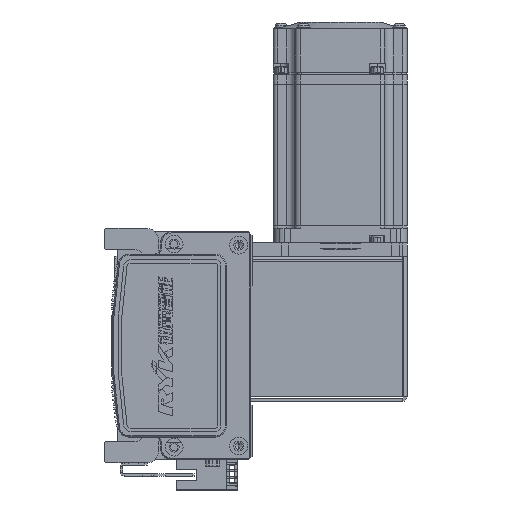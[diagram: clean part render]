
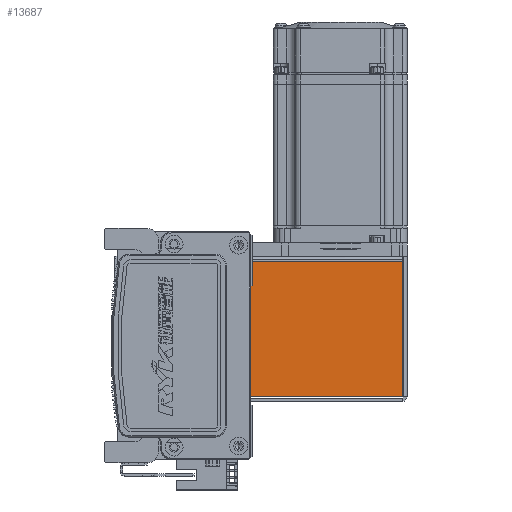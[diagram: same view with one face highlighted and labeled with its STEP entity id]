
A CAD part, left-side view. The second image highlights one B-rep face of the part: STEP entity #13687.
In plain terms, the highlighted planar face has unit normal (-1, 0, 0) as drawn and (0, 0, 1) by its records, which use the part's own axes.
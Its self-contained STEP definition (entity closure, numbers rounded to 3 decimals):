
#105 = VERTEX_POINT ( 'NONE', #59816 ) ;
#2006 = ORIENTED_EDGE ( 'NONE', *, *, #12366, .T. ) ;
#2077 = ORIENTED_EDGE ( 'NONE', *, *, #71342, .T. ) ;
#5154 = DIRECTION ( 'NONE',  ( -1., 0., 0. ) ) ;
#5592 = VERTEX_POINT ( 'NONE', #20975 ) ;
#6726 = ORIENTED_EDGE ( 'NONE', *, *, #36060, .F. ) ;
#7172 = LINE ( 'NONE', #55038, #21187 ) ;
#8751 = DIRECTION ( 'NONE',  ( 0., 1., 0. ) ) ;
#10531 = PLANE ( 'NONE',  #14360 ) ;
#10927 = CARTESIAN_POINT ( 'NONE',  ( 30.263, 72.5, 35. ) ) ;
#12366 = EDGE_CURVE ( 'NONE', #14037, #56559, #39897, .T. ) ;
#13687 = ADVANCED_FACE ( 'NONE', ( #21360 ), #10531, .F. ) ;
#14037 = VERTEX_POINT ( 'NONE', #66371 ) ;
#14360 = AXIS2_PLACEMENT_3D ( 'NONE', #55512, #39065, #50152 ) ;
#14374 = CARTESIAN_POINT ( 'NONE',  ( -30.293, 0., 35. ) ) ;
#15963 = EDGE_CURVE ( 'NONE', #14037, #5592, #7172, .T. ) ;
#20975 = CARTESIAN_POINT ( 'NONE',  ( -30.293, 0.737, 35. ) ) ;
#21187 = VECTOR ( 'NONE', #5154, 1000. ) ;
#21360 = FACE_OUTER_BOUND ( 'NONE', #64930, .T. ) ;
#26820 = VECTOR ( 'NONE', #8751, 1000. ) ;
#35585 = LINE ( 'NONE', #14374, #63631 ) ;
#35662 = LINE ( 'NONE', #45643, #68955 ) ;
#36060 = EDGE_CURVE ( 'NONE', #5592, #105, #35585, .T. ) ;
#39065 = DIRECTION ( 'NONE',  ( 0., 0., -1. ) ) ;
#39897 = LINE ( 'NONE', #70120, #26820 ) ;
#41993 = DIRECTION ( 'NONE',  ( 0., 1., 0. ) ) ;
#45643 = CARTESIAN_POINT ( 'NONE',  ( 0., 72.5, 35. ) ) ;
#50152 = DIRECTION ( 'NONE',  ( -1., 0., 0. ) ) ;
#51228 = DIRECTION ( 'NONE',  ( -1., 0., 0. ) ) ;
#55038 = CARTESIAN_POINT ( 'NONE',  ( -32.5, 0.737, 35. ) ) ;
#55512 = CARTESIAN_POINT ( 'NONE',  ( 0., 0., 35. ) ) ;
#56559 = VERTEX_POINT ( 'NONE', #10927 ) ;
#59816 = CARTESIAN_POINT ( 'NONE',  ( -30.293, 72.5, 35. ) ) ;
#63631 = VECTOR ( 'NONE', #41993, 1000. ) ;
#64930 = EDGE_LOOP ( 'NONE', ( #2006, #2077, #6726, #68279 ) ) ;
#66371 = CARTESIAN_POINT ( 'NONE',  ( 30.263, 0.737, 35. ) ) ;
#68279 = ORIENTED_EDGE ( 'NONE', *, *, #15963, .F. ) ;
#68955 = VECTOR ( 'NONE', #51228, 1000. ) ;
#70120 = CARTESIAN_POINT ( 'NONE',  ( 30.263, 0.737, 35. ) ) ;
#71342 = EDGE_CURVE ( 'NONE', #56559, #105, #35662, .T. ) ;
